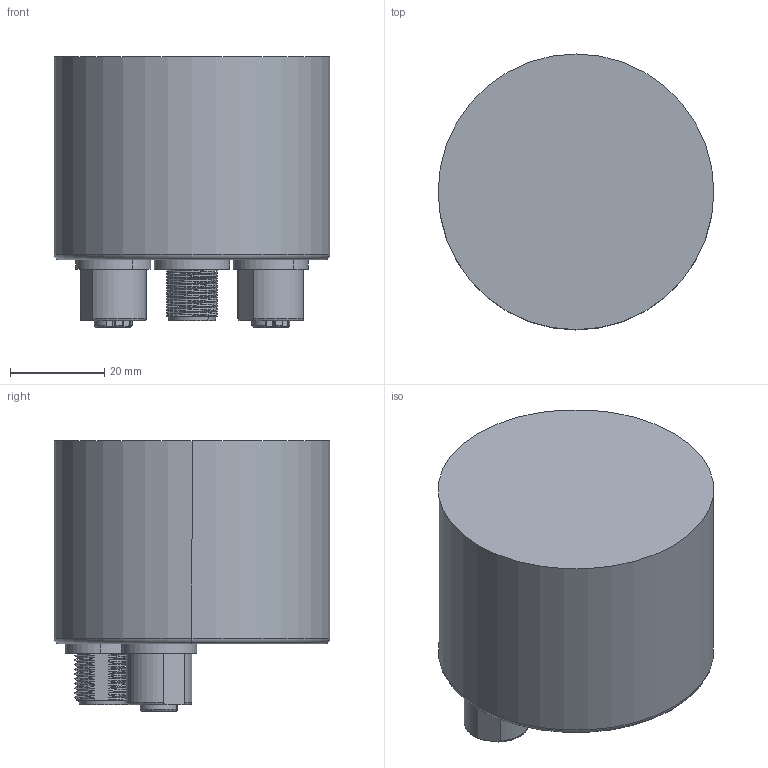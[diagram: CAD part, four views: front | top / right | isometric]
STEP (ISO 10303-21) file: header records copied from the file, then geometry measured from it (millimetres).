
FILE_DESCRIPTION (( 'STEP AP203' ), '1' );
FILE_NAME ('Drawing-XC-5-CA-432-SZM-12BNNN-Y-PAM-N.STEP', '2014-10-27T15:16:37', ( '' ), ( '' ), 'SwSTEP 2.0', 'SolidWorks 2014', '' );
FILE_SCHEMA (( 'CONFIG_CONTROL_DESIGN' ));
Length unit declared in the file: millimetre
Products named in the file (1): Drawing-XC-5-CA-432-SZM-12BNNN-Y-PAM-N
Bounding box: 58.6 x 58.6 x 57.58 mm (x, y, z)
Surface area: 17866.5 mm2 (no closed solid volume)
Topology: 0 solids, 17 shells, 409 faces, 1810 edges, 1456 vertices
Faces by surface type: cylinder 141, plane 120, cone 75, bspline 61, torus 8, sphere 4
Entity records: 34309 total; most frequent: CARTESIAN_POINT 21109, ORIENTED_EDGE 3073, DIRECTION 2010, EDGE_CURVE 1794, VERTEX_POINT 1448, VECTOR 682, LINE 682, AXIS2_PLACEMENT_3D 664
